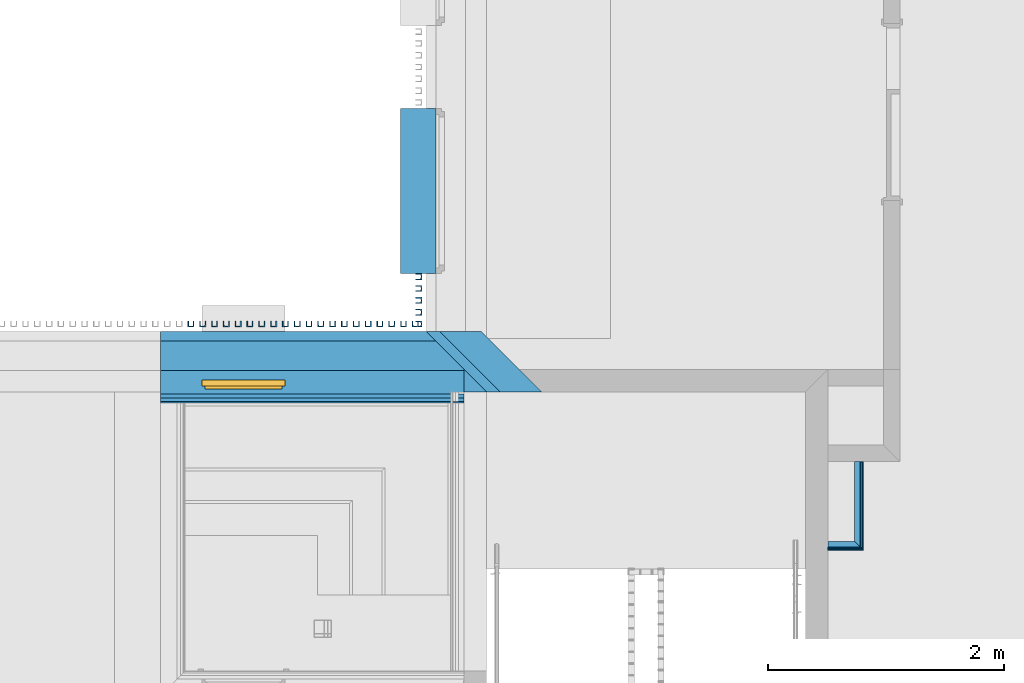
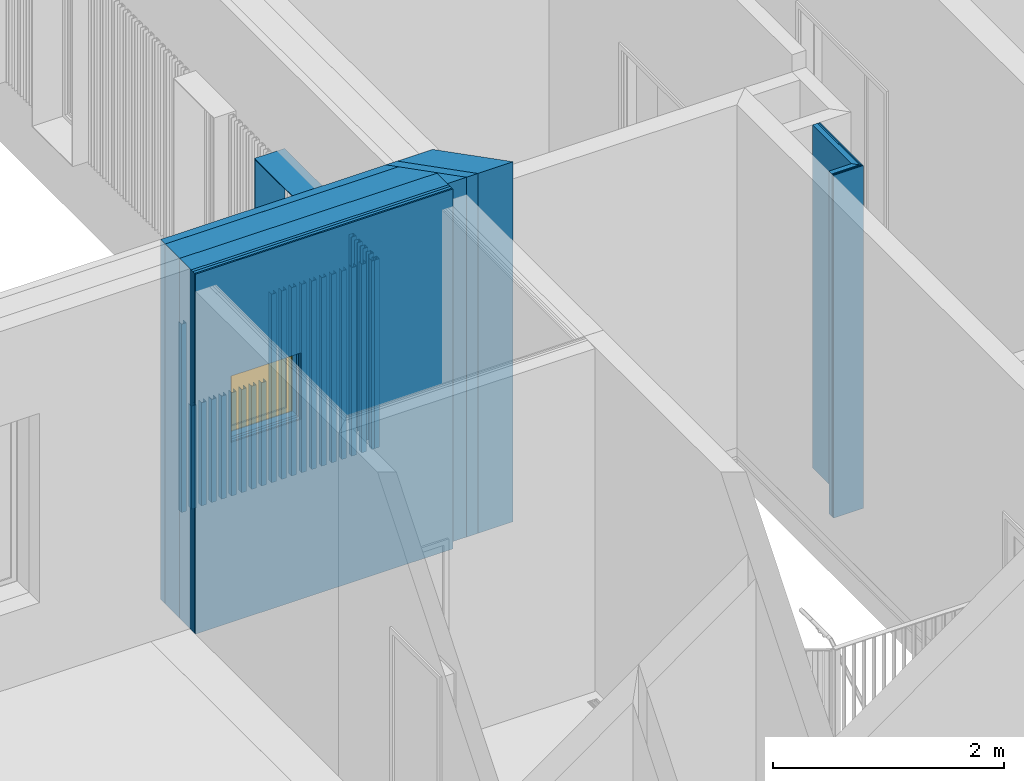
# One storey, part 36 of 100: 26 discrete accessories, 15 building element parts, 1 window, 1 opening, 4 elements without a shape of their own.
"""IFC2X3 building model written with IfcOpenShell, lengths in millimetres."""

from ifc_helpers import new_model, entity, si_unit, converted_unit, derived_unit, money_unit, direction, frame, origin_with_axes, origin_2d_with_axis, place, context, subcontext, project, spatial, polyline, rectangle, outline, extrude, open_shell, faceted_brep, surface_model, source, transform, mapped, material, type_object, element, fill, aggregate, save


model = new_model("IFC2X3")

# Units and contexts
model_context = context("Model", 3, precision=0.01, world=origin_with_axes(), true_north=direction((0.0, 1.0)))
body_context = subcontext(model_context, "Body", "Model", "MODEL_VIEW")
ifc_project = project(units=[si_unit("LENGTHUNIT", "METRE", prefix="MILLI"), si_unit("AREAUNIT", "SQUARE_METRE"), si_unit("VOLUMEUNIT", "CUBIC_METRE"), converted_unit("PLANEANGLEUNIT", "DEGREE", entity("IfcPlaneAngleMeasure", 0.0174532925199), si_unit("PLANEANGLEUNIT", "RADIAN"), dimensions=[0, 0, 0, 0, 0, 0, 0]), si_unit("SOLIDANGLEUNIT", "STERADIAN"), money_unit("EUR"), converted_unit("TIMEUNIT", "Year", entity("IfcTimeMeasure", 31556926.0), si_unit("TIMEUNIT", "SECOND"), dimensions=[0, 0, 1, 0, 0, 0, 0]), si_unit("MASSUNIT", "GRAM", prefix="KILO"), si_unit("THERMODYNAMICTEMPERATUREUNIT", "DEGREE_CELSIUS"), si_unit("LUMINOUSINTENSITYUNIT", "LUMEN"), si_unit("ENERGYUNIT", "JOULE", prefix="MEGA"), derived_unit("THERMALCONDUCTANCEUNIT", [(si_unit("POWERUNIT", "WATT"), 1), (si_unit("LENGTHUNIT", "METRE"), -1), (si_unit("THERMODYNAMICTEMPERATUREUNIT", "KELVIN"), -1)]), derived_unit("SPECIFICHEATCAPACITYUNIT", [(si_unit("ENERGYUNIT", "JOULE"), 1), (si_unit("MASSUNIT", "GRAM", prefix="KILO"), -1), (si_unit("THERMODYNAMICTEMPERATUREUNIT", "KELVIN"), -1)]), derived_unit("MASSDENSITYUNIT", [(si_unit("MASSUNIT", "GRAM", prefix="KILO"), 1), (si_unit("VOLUMEUNIT", "CUBIC_METRE"), -1)])], contexts=[model_context])

# Site, building, storey
site_placement = place(None, origin_with_axes())
site = spatial("IfcSite", under=ifc_project, at=site_placement, Name="Politse- ja Piirivalveameti ning Päästeameti ühishoone", CompositionType="ELEMENT")
building_placement = place(site_placement, origin_with_axes())
building = spatial("IfcBuilding", under=site, at=building_placement, Name="Politse- ja Piirivalveameti ning Päästeameti ühishoone", CompositionType="ELEMENT")
storey_placement = place(building_placement, frame((0.0, 0.0, 3800.0), z_axis=(0.0, 0.0, 1.0), x_axis=(1.0, 0.0, 0.0)))
storey = spatial("IfcBuildingStorey", under=building, at=storey_placement, Name="Teine korrus", CompositionType="ELEMENT", Elevation=3800.0)

# Window
window_style = type_object("IfcWindowStyle", Name="Window 23", ConstructionType="NOTDEFINED", OperationType="SINGLE_PANEL", ParameterTakesPrecedence=False, Sizeable=False)
shared_shape_1 = source(origin_with_axes(), body_context, "Body", "SurfaceModel", [
    faceted_brep([(-325.0, 0.0, 650.0), (-350.0, 0.0, 650.0), (-350.0, -50.0, 650.0), (-300.0, -50.0, 650.0), (-300.0, -25.0, 650.0), (-325.0, -25.0, 650.0), (-325.0, 0.0, 50.0), (-350.0, 0.0, 50.0), (-350.0, -50.0, 50.0), (-300.0, -50.0, 50.0), (-300.0, -25.0, 50.0), (-325.0, -25.0, 50.0)], [[[0, 1, 2, 3, 4, 5]], [[6, 7, 1, 0]], [[1, 7, 8, 2]], [[2, 8, 9, 3]], [[4, 3, 9, 10]], [[10, 11, 5, 4]], [[5, 11, 6, 0]], [[11, 10, 9, 8, 7, 6]]]),
    faceted_brep([(300.0, -25.0, 650.0), (300.0, -50.0, 650.0), (350.0, -50.0, 650.0), (350.0, 0.0, 650.0), (325.0, 0.0, 650.0), (325.0, -25.0, 650.0), (300.0, -25.0, 50.0), (300.0, -50.0, 50.0), (350.0, -50.0, 50.0), (350.0, 0.0, 50.0), (325.0, 0.0, 50.0), (325.0, -25.0, 50.0)], [[[0, 1, 2, 3, 4, 5]], [[6, 7, 1, 0]], [[8, 2, 1, 7]], [[9, 3, 2, 8]], [[4, 3, 9, 10]], [[10, 11, 5, 4]], [[5, 11, 6, 0]], [[11, 10, 9, 8, 7, 6]]]),
    faceted_brep([(300.0, -25.0, 50.0), (300.0, -50.0, 50.0), (350.0, -50.0, 50.0), (350.0, 0.0, 50.0), (325.0, 0.0, 50.0), (325.0, -25.0, 50.0), (-300.0, -25.0, 50.0), (-300.0, -50.0, 50.0), (-350.0, -50.0, 50.0), (-350.0, -50.0, 0.0), (350.0, -50.0, 0.0), (350.0, 0.0, 0.0), (-325.0, 0.0, 25.0), (325.0, 0.0, 25.0), (-350.0, 0.0, 0.0), (-350.0, 0.0, 50.0), (-325.0, 0.0, 50.0), (325.0, -25.0, 25.0), (-325.0, -25.0, 25.0), (-325.0, -25.0, 50.0)], [[[0, 1, 2, 3, 4, 5]], [[6, 7, 1, 0]], [[8, 9, 10, 2, 1, 7]], [[11, 3, 2, 10]], [[12, 13, 4, 3, 11, 14, 15, 16]], [[13, 17, 5, 4]], [[5, 17, 18, 19, 6, 0]], [[19, 16, 15, 8, 7, 6]], [[15, 14, 9, 8]], [[14, 11, 10, 9]], [[12, 18, 17, 13]], [[19, 18, 12, 16]]]),
    faceted_brep([(-325.0, 0.0, 650.0), (-350.0, 0.0, 650.0), (-350.0, 0.0, 700.0), (350.0, 0.0, 700.0), (350.0, 0.0, 650.0), (325.0, 0.0, 650.0), (325.0, 0.0, 675.0), (-325.0, 0.0, 675.0), (-325.0, -25.0, 650.0), (-300.0, -25.0, 650.0), (-300.0, -50.0, 650.0), (-350.0, -50.0, 650.0), (-350.0, -50.0, 700.0), (350.0, -50.0, 700.0), (350.0, -50.0, 650.0), (325.0, -25.0, 650.0), (300.0, -50.0, 650.0), (300.0, -25.0, 650.0), (325.0, -25.0, 675.0), (-325.0, -25.0, 675.0)], [[[0, 1, 2, 3, 4, 5, 6, 7]], [[8, 9, 10, 11, 1, 0]], [[2, 1, 11, 12]], [[3, 2, 12, 13]], [[4, 3, 13, 14]], [[15, 5, 4, 14, 16, 17]], [[5, 15, 18, 6]], [[6, 18, 19, 7]], [[7, 19, 8, 0]], [[17, 9, 8, 19, 18, 15]], [[17, 16, 10, 9]], [[14, 13, 12, 11, 10, 16]]]),
    faceted_brep([(-275.0, -25.0, 625.0), (-275.0, 25.0, 625.0), (-325.0, 25.0, 625.0), (-325.0, -25.0, 625.0), (-275.0, -25.0, 75.0), (-275.0, 25.0, 75.0), (-325.0, 25.0, 75.0), (-325.0, -25.0, 75.0)], [[[0, 1, 2, 3]], [[4, 5, 1, 0]], [[1, 5, 6, 2]], [[3, 2, 6, 7]], [[0, 3, 7, 4]], [[7, 6, 5, 4]]]),
    faceted_brep([(275.0, -25.0, 75.0), (275.0, 25.0, 75.0), (325.0, 25.0, 75.0), (325.0, -25.0, 75.0), (275.0, -25.0, 625.0), (275.0, 25.0, 625.0), (325.0, 25.0, 625.0), (325.0, -25.0, 625.0)], [[[0, 1, 2, 3]], [[4, 5, 1, 0]], [[1, 5, 6, 2]], [[3, 2, 6, 7]], [[0, 3, 7, 4]], [[7, 6, 5, 4]]]),
    faceted_brep([(325.0, -25.0, 25.0), (325.0, 25.0, 25.0), (325.0, 25.0, 75.0), (325.0, -25.0, 75.0), (-325.0, -25.0, 25.0), (-325.0, 25.0, 25.0), (-325.0, 25.0, 75.0), (-275.0, 25.0, 75.0), (275.0, 25.0, 75.0), (275.0, -25.0, 75.0), (-275.0, -25.0, 75.0), (-325.0, -25.0, 75.0)], [[[0, 1, 2, 3]], [[4, 5, 1, 0]], [[1, 5, 6, 7, 8, 2]], [[3, 2, 8, 9]], [[0, 3, 9, 10, 11, 4]], [[11, 6, 5, 4]], [[10, 7, 6, 11]], [[9, 8, 7, 10]]]),
    faceted_brep([(-325.0, -25.0, 675.0), (-325.0, 25.0, 675.0), (-325.0, 25.0, 625.0), (-325.0, -25.0, 625.0), (325.0, -25.0, 675.0), (325.0, 25.0, 675.0), (325.0, 25.0, 625.0), (275.0, 25.0, 625.0), (-275.0, 25.0, 625.0), (-275.0, -25.0, 625.0), (275.0, -25.0, 625.0), (325.0, -25.0, 625.0)], [[[0, 1, 2, 3]], [[4, 5, 1, 0]], [[1, 5, 6, 7, 8, 2]], [[3, 2, 8, 9]], [[0, 3, 9, 10, 11, 4]], [[11, 6, 5, 4]], [[10, 7, 6, 11]], [[9, 8, 7, 10]]]),
    surface_model("IfcShellBasedSurfaceModel", [(-275.0, -10.0, 75.0), (275.0, -10.0, 75.0), (275.0, -10.0, 625.0), (-275.0, -10.0, 625.0)], [open_shell([[[0, 1, 2, 3]]])]),
    surface_model("IfcShellBasedSurfaceModel", [(-275.0, 10.0, 75.0), (-275.0, 10.0, 625.0), (275.0, 10.0, 625.0), (275.0, 10.0, 75.0)], [open_shell([[[0, 1, 2, 3]]])]),
])
wall_2_placement = place(storey_placement, frame((57400.5003092, 20999.9535387, 0.0), z_axis=(0.0, 0.0, 1.0), x_axis=(1.0, 3.59364039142e-08, 0.0)))
opening_placement = place(wall_2_placement, frame((702.087667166, 0.0, 1900.0), z_axis=(0.0, 0.0, 1.0), x_axis=(1.0, 0.0, 0.0)))
window_placement = place(opening_placement, frame((350.0, 0.0, 0.0), z_axis=(0.0, 0.0, 1.0), x_axis=(-1.0, 0.0, 0.0)))
window = element("IfcWindow", 1, at=window_placement, inside=storey, type_object=window_style, Name="A-04", ObjectType="WINDOW", OverallHeight=700.0, OverallWidth=700.0, context=body_context, shape_type="MappedRepresentation", body=[
    mapped(shared_shape_1, transform((349.999994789, -49.9999747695, 0.0))),
])

# Discrete accessories
ifc_material_1 = material(Name="SV-01_Krohv - Kips")
discrete_accessory_type_1 = type_object("IfcDiscreteAccessoryType", Name="Architrave 01 23")
shared_shape_2 = source(origin_with_axes(), body_context, "Body", "Brep", [
    faceted_brep([(700.0, 0.0, -10.0), (700.0, -300.182356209, -10.0), (-700.0, -300.182356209, -10.0), (-700.0, 0.0, -10.0), (690.0, 0.0, 0.0), (690.0, -300.182356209, 0.0), (-690.0, -300.182356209, 0.0), (-690.0, 0.0, 0.0)], [[[0, 1, 2, 3]], [[4, 5, 1, 0]], [[1, 5, 6, 2]], [[3, 2, 6, 7]], [[0, 3, 7, 4]], [[7, 6, 5, 4]]]),
    faceted_brep([(-700.0, 0.0, -10.0), (-700.0, -300.182356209, -10.0), (-700.0, -300.182356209, 1990.0), (-700.0, 0.0, 1990.0), (-690.0, 0.0, 0.0), (-690.0, -300.182356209, 0.0), (-690.0, -300.182356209, 1980.0), (-690.0, 0.0, 1980.0)], [[[0, 1, 2, 3]], [[4, 5, 1, 0]], [[1, 5, 6, 2]], [[3, 2, 6, 7]], [[0, 3, 7, 4]], [[7, 6, 5, 4]]]),
    faceted_brep([(-700.0, 0.0, 1990.0), (-700.0, -300.182356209, 1990.0), (700.0, -300.182356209, 1990.0), (700.0, 0.0, 1990.0), (-690.0, 0.0, 1980.0), (-690.0, -300.182356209, 1980.0), (690.0, -300.182356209, 1980.0), (690.0, 0.0, 1980.0)], [[[0, 1, 2, 3]], [[4, 5, 1, 0]], [[1, 5, 6, 2]], [[3, 2, 6, 7]], [[0, 3, 7, 4]], [[7, 6, 5, 4]]]),
    faceted_brep([(700.0, 0.0, 1990.0), (700.0, -300.182356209, 1990.0), (700.0, -300.182356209, -10.0), (700.0, 0.0, -10.0), (690.0, 0.0, 1980.0), (690.0, -300.182356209, 1980.0), (690.0, -300.182356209, 0.0), (690.0, 0.0, 0.0)], [[[0, 1, 2, 3]], [[4, 5, 1, 0]], [[1, 5, 6, 2]], [[3, 2, 6, 7]], [[0, 3, 7, 4]], [[7, 6, 5, 4]]]),
])
discrete_accessory_placement = place(storey_placement, frame((59730.5519118, 22699.9520832, 810.0), z_axis=(0.0, 0.0, 1.0), x_axis=(0.0, -1.0, 0.0)))
element("IfcDiscreteAccessory", 2, at=discrete_accessory_placement, inside=storey, type_object=discrete_accessory_type_1, material=ifc_material_1, Name="AKNARAAM 01", context=body_context, shape_type="MappedRepresentation", body=[
    mapped(shared_shape_2, transform((0.0, 0.0, 0.0))),
])
ifc_material_2 = material(Name="ET-05_Teras")
discrete_accessory_type_2 = type_object("IfcDiscreteAccessoryType", Name="UAP Column 23")
shared_shape_3 = source(origin_with_axes(), body_context, "Body", "Brep", [
    faceted_brep([(-25.0, -25.0, 0.0), (-25.0, -25.0, 1990.0), (-25.0, -20.0, 1990.0), (-25.0, -20.0, 0.0), (25.0, -25.0, 0.0), (25.0, -25.0, 1990.0), (25.0, 25.0, 1990.0), (-25.0, 25.0, 1990.0), (-25.0, 20.0, 1990.0), (8.5, 20.0, 1990.0), (14.25, 18.4592921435, 1990.0), (18.4592921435, 14.25, 1990.0), (20.0, 8.5, 1990.0), (20.0, -8.5, 1990.0), (18.4592921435, -14.25, 1990.0), (14.25, -18.4592921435, 1990.0), (8.5, -20.0, 1990.0), (8.5, -20.0, 0.0), (14.25, -18.4592921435, 0.0), (18.4592921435, -14.25, 0.0), (20.0, -8.5, 0.0), (20.0, 8.5, 0.0), (18.4592921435, 14.25, 0.0), (14.25, 18.4592921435, 0.0), (8.5, 20.0, 0.0), (-25.0, 20.0, 0.0), (-25.0, 25.0, 0.0), (25.0, 25.0, 0.0)], [[[0, 1, 2, 3]], [[4, 5, 1, 0]], [[1, 5, 6, 7, 8, 9, 10, 11, 12, 13, 14, 15, 16, 2]], [[3, 2, 16, 17]], [[0, 3, 17, 18, 19, 20, 21, 22, 23, 24, 25, 26, 27, 4]], [[27, 6, 5, 4]], [[26, 7, 6, 27]], [[25, 8, 7, 26]], [[24, 9, 8, 25]], [[23, 10, 9, 24]], [[22, 11, 10, 23]], [[21, 12, 11, 22]], [[20, 13, 12, 21]], [[19, 14, 13, 20]], [[18, 15, 14, 19]], [[17, 16, 15, 18]]]),
])
for number, where, z_axis, x_axis in (
    (3, (57657.0169791, 21574.5963246, 810.000049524), (0.0, 0.0, 1.0), (1.30049800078e-07, -1.0, 0.0)),
    (4, (58557.0169791, 21574.5963246, 810.000049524), (0.0, 0.0, 1.0), (1.30049800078e-07, -1.0, 0.0)),
    (5, (58857.0169791, 21574.5963246, 810.000049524), (0.0, 0.0, 1.0), (1.30049800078e-07, -1.0, 0.0)),
    (6, (58757.0169791, 21574.5963116, 810.000049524), (0.0, 0.0, 1.0), (1.30049800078e-07, -1.0, 0.0)),
    (7, (58657.0169791, 21574.5962986, 810.000049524), (0.0, 0.0, 1.0), (1.30049800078e-07, -1.0, 0.0)),
    (8, (59157.0169791, 21574.5963246, 810.000049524), (0.0, 0.0, 1.0), (1.30049800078e-07, -1.0, 0.0)),
    (9, (59057.0169791, 21574.5963116, 810.000049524), (0.0, 0.0, 1.0), (1.30049800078e-07, -1.0, 0.0)),
    (10, (58957.0169791, 21574.5962986, 810.000049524), (0.0, 0.0, 1.0), (1.30049800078e-07, -1.0, 0.0)),
    (11, (59457.0169791, 21574.5963246, 810.000049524), (0.0, 0.0, 1.0), (1.30049800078e-07, -1.0, 0.0)),
    (12, (59357.0169791, 21574.5963116, 810.000049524), (0.0, 0.0, 1.0), (1.30049800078e-07, -1.0, 0.0)),
    (13, (59257.0169791, 21574.5962986, 810.000049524), (0.0, 0.0, 1.0), (1.30049800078e-07, -1.0, 0.0)),
    (14, (59557.0169791, 21574.5962986, 810.000049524), (0.0, 0.0, 1.0), (1.30049800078e-07, -1.0, 0.0)),
    (15, (59585.9088163, 21774.4701114, 810.000049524), (0.0, 0.0, 1.0), (1.0, 0.0, 0.0)),
    (16, (59585.9088163, 21674.4701114, 810.000049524), (0.0, 0.0, 1.0), (1.0, 0.0, 0.0)),
    (17, (59585.9088163, 21574.4701114, 810.000049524), (0.0, 0.0, 1.0), (1.0, 0.0, 0.0)),
    (18, (59585.9088163, 21975.3323376, 810.000049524), (0.0, 0.0, 1.0), (1.0, 0.0, 0.0)),
    (19, (59585.9088163, 21875.3323376, 810.000049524), (0.0, 0.0, 1.0), (1.0, 0.0, 0.0)),
):
    element("IfcDiscreteAccessory", number, at=place(storey_placement, frame(where, z_axis=z_axis, x_axis=x_axis)), inside=storey, type_object=discrete_accessory_type_2, material=ifc_material_2, Name="Fassaadiribid", context=body_context, shape_type="MappedRepresentation", body=[
        mapped(shared_shape_3, transform((0.0, 0.0, 0.0))),
    ])
shared_shape_4 = source(origin_with_axes(), body_context, "Body", "Brep", [
    faceted_brep([(-25.0, -25.0, 0.0), (-25.0, -25.0, 1089.99995048), (-25.0, -20.0, 1089.99995048), (-25.0, -20.0, 0.0), (25.0, -25.0, 0.0), (25.0, -25.0, 1089.99995048), (25.0, 25.0, 1089.99995048), (-25.0, 25.0, 1089.99995048), (-25.0, 20.0, 1089.99995048), (8.5, 20.0, 1089.99995048), (14.25, 18.4592921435, 1089.99995048), (18.4592921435, 14.25, 1089.99995048), (20.0, 8.5, 1089.99995048), (20.0, -8.5, 1089.99995048), (18.4592921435, -14.25, 1089.99995048), (14.25, -18.4592921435, 1089.99995048), (8.5, -20.0, 1089.99995048), (8.5, -20.0, 0.0), (14.25, -18.4592921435, 0.0), (18.4592921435, -14.25, 0.0), (20.0, -8.5, 0.0), (20.0, 8.5, 0.0), (18.4592921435, 14.25, 0.0), (14.25, 18.4592921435, 0.0), (8.5, 20.0, 0.0), (-25.0, 20.0, 0.0), (-25.0, 25.0, 0.0), (25.0, 25.0, 0.0)], [[[0, 1, 2, 3]], [[4, 5, 1, 0]], [[1, 5, 6, 7, 8, 9, 10, 11, 12, 13, 14, 15, 16, 2]], [[3, 2, 16, 17]], [[0, 3, 17, 18, 19, 20, 21, 22, 23, 24, 25, 26, 27, 4]], [[27, 6, 5, 4]], [[26, 7, 6, 27]], [[25, 8, 7, 26]], [[24, 9, 8, 25]], [[23, 10, 9, 24]], [[22, 11, 10, 23]], [[21, 12, 11, 22]], [[20, 13, 12, 21]], [[19, 14, 13, 20]], [[18, 15, 14, 19]], [[17, 16, 15, 18]]]),
])
for number, where, z_axis, x_axis in (
    (20, (57957.0169791, 21574.5963246, 810.000049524), (0.0, 0.0, 1.0), (1.30049800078e-07, -1.0, 0.0)),
    (21, (57857.0169791, 21574.5963116, 810.000049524), (0.0, 0.0, 1.0), (1.30049800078e-07, -1.0, 0.0)),
    (22, (57757.0169791, 21574.5962986, 810.000049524), (0.0, 0.0, 1.0), (1.30049800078e-07, -1.0, 0.0)),
    (23, (58257.0169791, 21574.5963246, 810.000049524), (0.0, 0.0, 1.0), (1.30049800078e-07, -1.0, 0.0)),
    (24, (58157.0169791, 21574.5963116, 810.000049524), (0.0, 0.0, 1.0), (1.30049800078e-07, -1.0, 0.0)),
    (25, (58057.0169791, 21574.5962986, 810.000049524), (0.0, 0.0, 1.0), (1.30049800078e-07, -1.0, 0.0)),
    (26, (58457.0169791, 21574.5963116, 810.000049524), (0.0, 0.0, 1.0), (1.30049800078e-07, -1.0, 0.0)),
    (27, (58357.0169791, 21574.5962986, 810.000049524), (0.0, 0.0, 1.0), (1.30049800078e-07, -1.0, 0.0)),
):
    element("IfcDiscreteAccessory", number, at=place(storey_placement, frame(where, z_axis=z_axis, x_axis=x_axis)), inside=storey, type_object=discrete_accessory_type_2, material=ifc_material_2, Name="Fassaadiribid", context=body_context, shape_type="MappedRepresentation", body=[
        mapped(shared_shape_4, transform((0.0, 0.0, 0.0))),
    ])

# Wall, building element parts
wall_type_1 = type_object("IfcWallType", Name="VS-01_välissein 510", PredefinedType="NOTDEFINED")
wall_1_placement = place(storey_placement, frame((59970.5519118, 20999.953631, 0.0), z_axis=(0.0, 0.0, 1.0), x_axis=(1.0, 3.59364094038e-08, 0.0)))
wall_1 = element("IfcWall", 28, at=wall_1_placement, inside=storey, type_object=wall_type_1, Name="VS-01")
ifc_material_3 = material(Name="KON-04_Betoon - Konstuktsioon")
building_element_part_1_placement = place(wall_1_placement, origin_with_axes())
building_element_part_1 = element("IfcBuildingElementPart", 29, at=building_element_part_1_placement, material=ifc_material_3, Name="KON-04_Betoon - Konstuktsioon", context=body_context, shape_type="SweptSolid", body=[
    extrude(outline(polyline([(0.0, 0.0), (0.0, 510.0), (146.690485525, 510.0), (656.690467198, 0.0), (0.0, 0.0)])), origin_with_axes(), (0.0, 0.0, 1.0), 3800.0),
])
ifc_material_4 = material(Name="SOJ-06_Soojustus - Plastik Kõva")
building_element_part_2_placement = place(wall_1_placement, origin_with_axes())
building_element_part_2 = element("IfcBuildingElementPart", 30, at=building_element_part_2_placement, material=ifc_material_4, Name="SOJ-06_Soojustus - Plastik Kõva", context=body_context, shape_type="SweptSolid", body=[
    extrude(outline(polyline([(656.690467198, 0.0), (146.690485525, 510.0), (-206.862898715, 510.0), (303.137082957, 0.0), (656.690467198, 0.0)])), origin_with_axes(), (0.0, 0.0, 1.0), 3800.0),
])
building_element_part_3_placement = place(wall_1_placement, origin_with_axes())
building_element_part_3 = element("IfcBuildingElementPart", 31, at=building_element_part_3_placement, material=ifc_material_3, Name="KON-04_Betoon - Konstuktsioon", context=body_context, shape_type="SweptSolid", body=[
    extrude(outline(polyline([(303.137082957, 0.0), (-206.862898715, 510.0), (-319.999981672, 510.0), (190.0, 0.0), (303.137082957, 0.0)])), origin_with_axes(), (0.0, 0.0, 1.0), 3800.0),
])
aggregate(wall_1, [building_element_part_1, building_element_part_2, building_element_part_3])

# Wall, opening
wall_type_2 = type_object("IfcWallType", Name="VS-10_välissein leiliruum 605", PredefinedType="NOTDEFINED")
wall_2 = element("IfcWall", 32, at=wall_2_placement, inside=storey, type_object=wall_type_2, Name="VS-10")
opening = element("IfcOpeningElement", 33, at=opening_placement, cuts=wall_2, Name="A-04", context=body_context, shape_type="SweptSolid", body=[
    extrude(rectangle(XDim=700.0, YDim=700.0, at=origin_2d_with_axis()), frame((7.00759983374e-06, 99.9999747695, 350.0), z_axis=(-3.59364039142e-08, -1.0, 0.0), x_axis=(-1.0, 3.59364040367e-08, 0.0)), (0.0, 0.0, -1.0), 1015.0),
    extrude(rectangle(XDim=700.0, YDim=700.0, at=origin_2d_with_axis()), frame((7.00759983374e-06, 99.9999747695, 350.0), z_axis=(3.59364039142e-08, 1.0, 0.0), x_axis=(-1.0, 3.59364040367e-08, 0.0)), (0.0, 0.0, -1.0), 800.0),
])

fill(opening, window)

# Building element part
ifc_material_5 = material(Name="ET-01_Puit - Konstruktsioon")
building_element_part_4_placement = place(wall_2_placement, origin_with_axes())
building_element_part_4 = element("IfcBuildingElementPart", 34, at=building_element_part_4_placement, material=ifc_material_5, Name="ET-01_Puit - Konstruktsioon", context=body_context, shape_type="SweptSolid", body=[
    extrude(outline(polyline([(0.0, -95.0), (2570.05160266, -95.0), (2570.05160266, -80.0), (0.0, -80.0), (0.0, -95.0)])), origin_with_axes(), (0.0, 0.0, 1.0), 3800.0),
])

ifc_material_6 = material(Name="Õhkvahe")
building_element_part_5_placement = place(wall_2_placement, origin_with_axes())
building_element_part_5 = element("IfcBuildingElementPart", 35, at=building_element_part_5_placement, material=ifc_material_6, Name="Õhkvahe", context=body_context, shape_type="SweptSolid", body=[
    extrude(outline(polyline([(0.0, -80.0), (2570.05160266, -80.0), (2570.05160266, -50.0), (0.0, -50.0), (0.0, -80.0)])), origin_with_axes(), (0.0, 0.0, 1.0), 3800.0),
])

ifc_material_7 = material(Name="SOJ-02_Soojustus - Fiiber Kõva")
building_element_part_6_placement = place(wall_2_placement, origin_with_axes())
building_element_part_6 = element("IfcBuildingElementPart", 36, at=building_element_part_6_placement, material=ifc_material_7, Name="SOJ-02_Soojustus - Fiiber Kõva", context=body_context, shape_type="SweptSolid", body=[
    extrude(outline(polyline([(0.0, -50.0), (2570.05160266, -50.0), (2570.05160266, -20.0), (0.0, -20.0), (0.0, -50.0)])), origin_with_axes(), (0.0, 0.0, 1.0), 3800.0),
])

building_element_part_7_placement = place(wall_2_placement, origin_with_axes())
building_element_part_7 = element("IfcBuildingElementPart", 37, at=building_element_part_7_placement, material=ifc_material_3, Name="KON-04_Betoon - Konstuktsioon", context=body_context, shape_type="SweptSolid", body=[
    extrude(outline(polyline([(0.0, -20.0), (2570.05160266, -20.0), (2570.05160266, 180.0), (0.0, 180.0), (0.0, -20.0)])), origin_with_axes(), (0.0, 0.0, 1.0), 3800.0),
])

building_element_part_8_placement = place(wall_2_placement, origin_with_axes())
building_element_part_8 = element("IfcBuildingElementPart", 38, at=building_element_part_8_placement, material=ifc_material_4, Name="SOJ-06_Soojustus - Plastik Kõva", context=body_context, shape_type="SweptSolid", body=[
    extrude(outline(polyline([(0.0, 180.0), (2570.05160266, 180.0), (2570.05160266, 430.0), (0.0, 430.0), (0.0, 180.0)])), origin_with_axes(), (0.0, 0.0, 1.0), 3800.0),
])

building_element_part_9_placement = place(wall_2_placement, origin_with_axes())
building_element_part_9 = element("IfcBuildingElementPart", 39, at=building_element_part_9_placement, material=ifc_material_3, Name="KON-04_Betoon - Konstuktsioon", context=body_context, shape_type="SweptSolid", body=[
    extrude(outline(polyline([(0.0, 430.0), (2570.05160266, 430.0), (2570.05160266, 510.0), (0.0, 510.0), (0.0, 430.0)])), origin_with_axes(), (0.0, 0.0, 1.0), 3800.0),
])

aggregate(wall_2, [building_element_part_4, building_element_part_5, building_element_part_6, building_element_part_7, building_element_part_8, building_element_part_9])

# Wall, building element parts
wall_type_3 = type_object("IfcWallType", Name="SS-13_kergsein 75 ümber el-kilbi 75", PredefinedType="NOTDEFINED")
wall_3_placement = place(storey_placement, frame((63050.557259, 19659.9520832, 0.0), z_axis=(0.0, 0.0, 1.0), x_axis=(1.0, 0.0, 0.0)))
wall_3 = element("IfcWall", 40, at=wall_3_placement, inside=storey, type_object=wall_type_3, Name="SS-13")
ifc_material_8 = material(Name="Õhkvahe - Raam")
building_element_part_10_placement = place(wall_3_placement, origin_with_axes())
building_element_part_10 = element("IfcBuildingElementPart", 41, at=building_element_part_10_placement, material=ifc_material_8, Name="Õhkvahe - Raam", context=body_context, shape_type="SweptSolid", body=[
    extrude(outline(polyline([(0.0, 25.0), (275.0, 25.0), (225.0, 75.0), (0.0, 75.0), (0.0, 25.0)])), origin_with_axes(), (0.0, 0.0, 1.0), 3620.0),
])
ifc_material_9 = material(Name="SKR-02_Kipsplaat")
building_element_part_11_placement = place(wall_3_placement, origin_with_axes())
building_element_part_11 = element("IfcBuildingElementPart", 42, at=building_element_part_11_placement, material=ifc_material_9, Name="SKR-02_Kipsplaat", context=body_context, shape_type="SweptSolid", body=[
    extrude(outline(polyline([(0.0, 12.0), (288.0, 12.0), (275.0, 25.0), (0.0, 25.0), (0.0, 12.0)])), origin_with_axes(), (0.0, 0.0, 1.0), 3620.0),
])
building_element_part_12_placement = place(wall_3_placement, origin_with_axes())
building_element_part_12 = element("IfcBuildingElementPart", 43, at=building_element_part_12_placement, material=ifc_material_9, Name="SKR-02_Kipsplaat", context=body_context, shape_type="SweptSolid", body=[
    extrude(outline(polyline([(0.0, 0.0), (300.0, 0.0), (288.0, 12.0), (0.0, 12.0), (0.0, 0.0)])), origin_with_axes(), (0.0, 0.0, 1.0), 3620.0),
])
aggregate(wall_3, [building_element_part_10, building_element_part_11, building_element_part_12])

wall_4_placement = place(storey_placement, frame((63350.557259, 19659.9520832, 0.0), z_axis=(0.0, 0.0, 1.0), x_axis=(0.0, 1.0, 0.0)))
wall_4 = element("IfcWall", 44, at=wall_4_placement, inside=storey, type_object=wall_type_3, Name="SS-13")
building_element_part_13_placement = place(wall_4_placement, origin_with_axes())
building_element_part_13 = element("IfcBuildingElementPart", 45, at=building_element_part_13_placement, material=ifc_material_8, Name="Õhkvahe - Raam", context=body_context, shape_type="SweptSolid", body=[
    extrude(outline(polyline([(25.0, 25.0), (750.0, 25.0), (750.0, 75.0), (75.0, 75.0), (25.0, 25.0)])), origin_with_axes(), (0.0, 0.0, 1.0), 3620.0),
])
building_element_part_14_placement = place(wall_4_placement, origin_with_axes())
building_element_part_14 = element("IfcBuildingElementPart", 46, at=building_element_part_14_placement, material=ifc_material_9, Name="SKR-02_Kipsplaat", context=body_context, shape_type="SweptSolid", body=[
    extrude(outline(polyline([(12.0, 12.0), (750.0, 12.0), (750.0, 25.0), (25.0, 25.0), (12.0, 12.0)])), origin_with_axes(), (0.0, 0.0, 1.0), 3620.0),
])
building_element_part_15_placement = place(wall_4_placement, origin_with_axes())
building_element_part_15 = element("IfcBuildingElementPart", 47, at=building_element_part_15_placement, material=ifc_material_9, Name="SKR-02_Kipsplaat", context=body_context, shape_type="SweptSolid", body=[
    extrude(outline(polyline([(0.0, 0.0), (750.0, 0.0), (750.0, 12.0), (12.0, 12.0), (0.0, 0.0)])), origin_with_axes(), (0.0, 0.0, 1.0), 3620.0),
])
aggregate(wall_4, [building_element_part_13, building_element_part_14, building_element_part_15])

save(model, "model.ifc")
